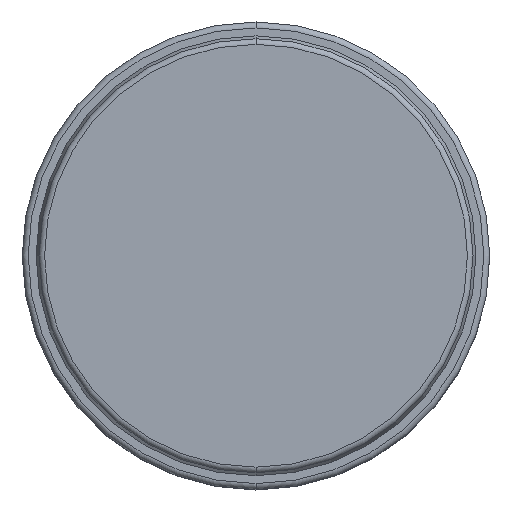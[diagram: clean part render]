
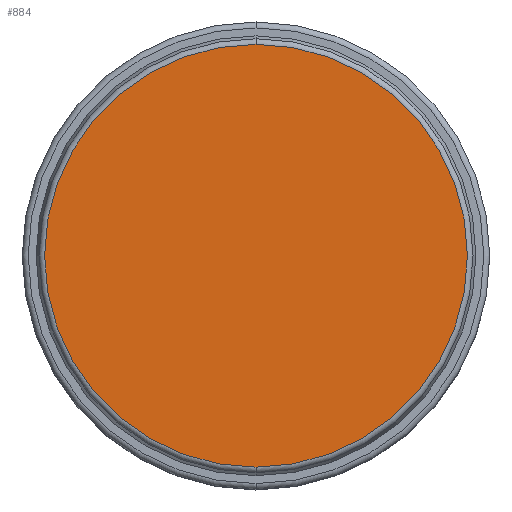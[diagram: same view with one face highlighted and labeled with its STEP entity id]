
A CAD part, top view. The second image highlights one B-rep face of the part: STEP entity #884.
In plain terms, the highlighted planar face has unit normal (0, 0, 1).
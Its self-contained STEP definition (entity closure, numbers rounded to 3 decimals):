
#13 = EDGE_CURVE ( 'NONE', #1553, #1124, #1193, .T. ) ;
#38 = DIRECTION ( 'NONE',  ( 0., 0., -1. ) ) ;
#195 = CARTESIAN_POINT ( 'NONE',  ( 0., 18.088, 26.6 ) ) ;
#489 = AXIS2_PLACEMENT_3D ( 'NONE', #1634, #2427, #1411 ) ;
#604 = DIRECTION ( 'NONE',  ( 0., 1., 0. ) ) ;
#884 = ADVANCED_FACE ( 'NONE', ( #1805 ), #1185, .T. ) ;
#948 = CIRCLE ( 'NONE', #489, 18.088 ) ;
#1124 = VERTEX_POINT ( 'NONE', #195 ) ;
#1185 = PLANE ( 'NONE',  #2193 ) ;
#1193 = CIRCLE ( 'NONE', #1939, 18.088 ) ;
#1226 = EDGE_CURVE ( 'NONE', #1124, #1553, #948, .T. ) ;
#1387 = ORIENTED_EDGE ( 'NONE', *, *, #1226, .F. ) ;
#1411 = DIRECTION ( 'NONE',  ( 0., 1., 0. ) ) ;
#1553 = VERTEX_POINT ( 'NONE', #1628 ) ;
#1628 = CARTESIAN_POINT ( 'NONE',  ( 0., -18.088, 26.6 ) ) ;
#1634 = CARTESIAN_POINT ( 'NONE',  ( 0., 0., 26.6 ) ) ;
#1762 = EDGE_LOOP ( 'NONE', ( #1387, #2110 ) ) ;
#1805 = FACE_OUTER_BOUND ( 'NONE', #1762, .T. ) ;
#1939 = AXIS2_PLACEMENT_3D ( 'NONE', #1995, #38, #604 ) ;
#1995 = CARTESIAN_POINT ( 'NONE',  ( 0., 0., 26.6 ) ) ;
#2110 = ORIENTED_EDGE ( 'NONE', *, *, #13, .F. ) ;
#2159 = DIRECTION ( 'NONE',  ( 0., 0., 1. ) ) ;
#2193 = AXIS2_PLACEMENT_3D ( 'NONE', #2381, #2159, #2197 ) ;
#2197 = DIRECTION ( 'NONE',  ( 0., -1., 0. ) ) ;
#2381 = CARTESIAN_POINT ( 'NONE',  ( 0., 18.088, 26.6 ) ) ;
#2427 = DIRECTION ( 'NONE',  ( 0., 0., -1. ) ) ;
